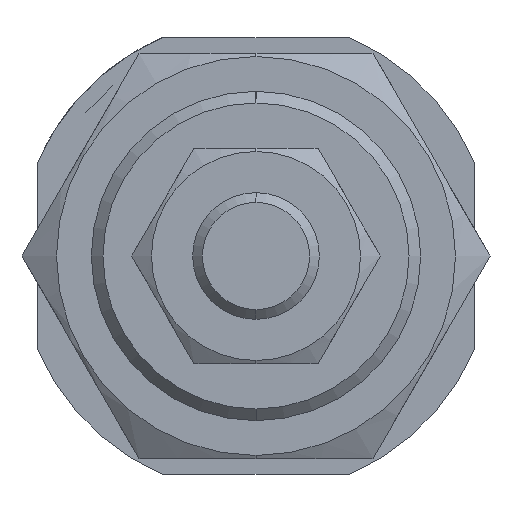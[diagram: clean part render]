
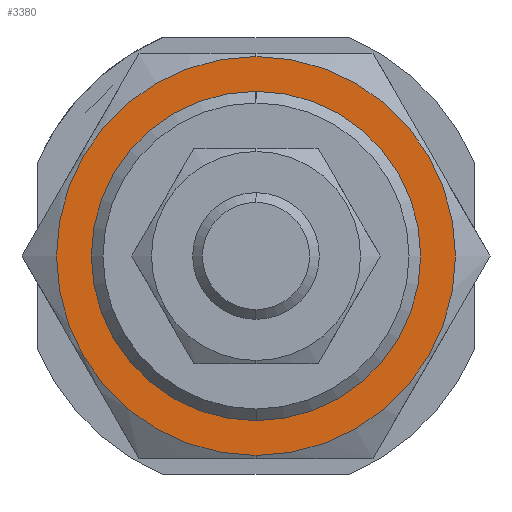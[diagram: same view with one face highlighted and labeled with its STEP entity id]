
A CAD part, left-side view. The second image highlights one B-rep face of the part: STEP entity #3380.
In plain terms, the highlighted planar face has unit normal (-1, 0, 0).
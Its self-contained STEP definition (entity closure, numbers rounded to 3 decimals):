
#190 = AXIS2_PLACEMENT_3D ( 'NONE', #4224, #3809, #2990 ) ;
#523 = ORIENTED_EDGE ( 'NONE', *, *, #4320, .T. ) ;
#607 = DIRECTION ( 'NONE',  ( 0., 0., -1. ) ) ;
#661 = DIRECTION ( 'NONE',  ( 0., 0., -1. ) ) ;
#721 = VERTEX_POINT ( 'NONE', #3576 ) ;
#846 = CARTESIAN_POINT ( 'NONE',  ( -11., 0., 13. ) ) ;
#909 = CARTESIAN_POINT ( 'NONE',  ( -11., 0., 15.75 ) ) ;
#916 = FACE_BOUND ( 'NONE', #2241, .T. ) ;
#965 = EDGE_CURVE ( 'NONE', #3535, #1712, #2185, .T. ) ;
#1171 = CARTESIAN_POINT ( 'NONE',  ( -11., 0., -13. ) ) ;
#1219 = DIRECTION ( 'NONE',  ( 0., 0., -1. ) ) ;
#1494 = AXIS2_PLACEMENT_3D ( 'NONE', #3564, #1553, #607 ) ;
#1550 = VERTEX_POINT ( 'NONE', #909 ) ;
#1553 = DIRECTION ( 'NONE',  ( 1., 0., 0. ) ) ;
#1564 = EDGE_CURVE ( 'NONE', #721, #1550, #2844, .T. ) ;
#1712 = VERTEX_POINT ( 'NONE', #846 ) ;
#1832 = DIRECTION ( 'NONE',  ( 0., 0., -1. ) ) ;
#1952 = EDGE_CURVE ( 'NONE', #1550, #721, #5072, .T. ) ;
#2185 = CIRCLE ( 'NONE', #5255, 13. ) ;
#2241 = EDGE_LOOP ( 'NONE', ( #523, #3120 ) ) ;
#2558 = PLANE ( 'NONE',  #190 ) ;
#2605 = FACE_OUTER_BOUND ( 'NONE', #5238, .T. ) ;
#2844 = CIRCLE ( 'NONE', #3016, 15.75 ) ;
#2990 = DIRECTION ( 'NONE',  ( 0., 1., 0. ) ) ;
#3016 = AXIS2_PLACEMENT_3D ( 'NONE', #5175, #4346, #1832 ) ;
#3120 = ORIENTED_EDGE ( 'NONE', *, *, #965, .T. ) ;
#3380 = ADVANCED_FACE ( 'NONE', ( #2605, #916 ), #2558, .F. ) ;
#3535 = VERTEX_POINT ( 'NONE', #1171 ) ;
#3564 = CARTESIAN_POINT ( 'NONE',  ( -11., 0., 0. ) ) ;
#3576 = CARTESIAN_POINT ( 'NONE',  ( -11., 0., -15.75 ) ) ;
#3650 = ORIENTED_EDGE ( 'NONE', *, *, #1564, .F. ) ;
#3657 = AXIS2_PLACEMENT_3D ( 'NONE', #4833, #4883, #661 ) ;
#3809 = DIRECTION ( 'NONE',  ( 1., 0., 0. ) ) ;
#4187 = CIRCLE ( 'NONE', #3657, 13. ) ;
#4224 = CARTESIAN_POINT ( 'NONE',  ( -11., 0., 0. ) ) ;
#4304 = ORIENTED_EDGE ( 'NONE', *, *, #1952, .F. ) ;
#4320 = EDGE_CURVE ( 'NONE', #1712, #3535, #4187, .T. ) ;
#4346 = DIRECTION ( 'NONE',  ( 1., 0., 0. ) ) ;
#4833 = CARTESIAN_POINT ( 'NONE',  ( -11., 0., 0. ) ) ;
#4883 = DIRECTION ( 'NONE',  ( 1., 0., 0. ) ) ;
#4898 = CARTESIAN_POINT ( 'NONE',  ( -11., 0., 0. ) ) ;
#4952 = DIRECTION ( 'NONE',  ( 1., 0., 0. ) ) ;
#5072 = CIRCLE ( 'NONE', #1494, 15.75 ) ;
#5175 = CARTESIAN_POINT ( 'NONE',  ( -11., 0., 0. ) ) ;
#5238 = EDGE_LOOP ( 'NONE', ( #3650, #4304 ) ) ;
#5255 = AXIS2_PLACEMENT_3D ( 'NONE', #4898, #4952, #1219 ) ;
